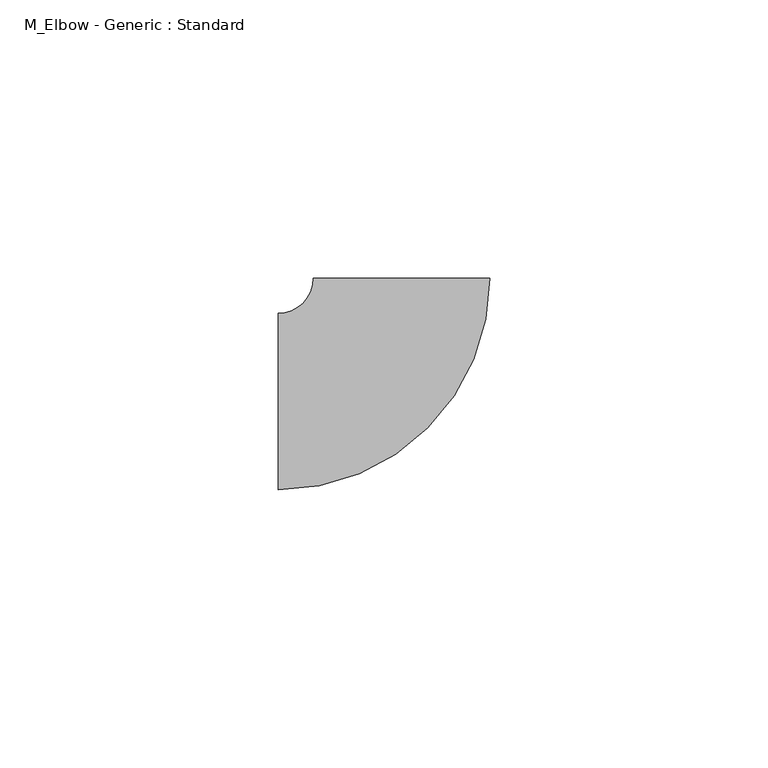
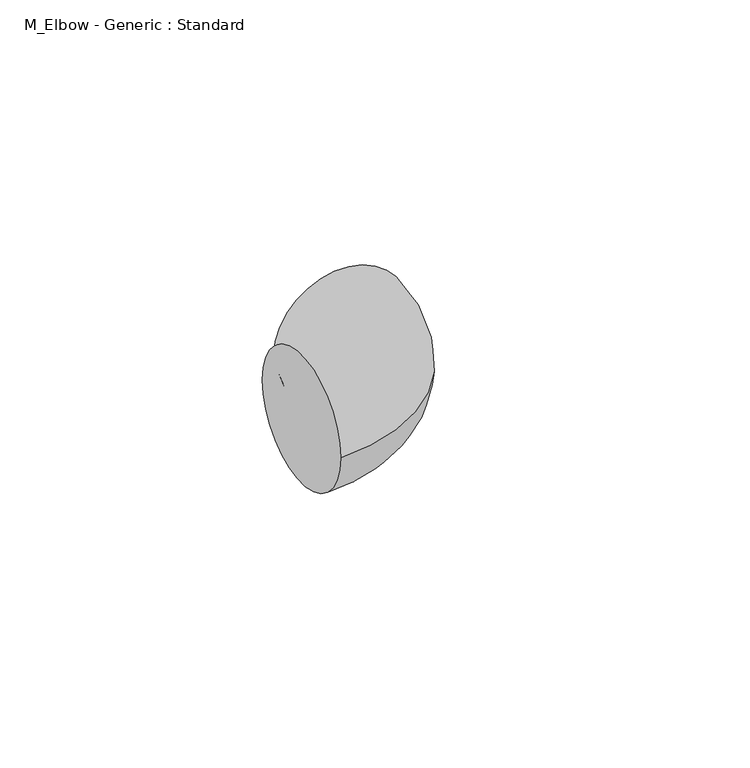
"""IFC4 building model written with IfcOpenShell, lengths in millimetres: pipe fitting geometry, M_Elbow - Generic : Standard."""

from ifc_helpers import new_model, si_unit, point, frame, origin, place, context, project, spatial, circle_curve, ellipse_curve, trimmed, source, transform, mapped, element, save
from ifc_brep_helpers import plane_surface, revolved_surface, advanced_brep


def m_elbow_generic_standard_463efa77(model_context):
    return source(origin(), model_context, "Body", "AdvancedBrep", [
        advanced_brep(
        [(-22.225, -15.875, 0.0), (-22.225, 15.875, 0.0), (15.875, 22.225, 0.0), (-15.875, 22.225, 0.0)],
        [
            (0, 1, circle_curve(frame((-22.225, 0.0, 0.0), z_axis=(-1.0, 0.0, 0.0), x_axis=(0.0, 1.0, 0.0)), 15.875)),
            (1, 0, circle_curve(frame((-22.225, 0.0, 0.0), z_axis=(-1.0, 0.0, 0.0), x_axis=(0.0, 1.0, 0.0)), 15.875)),
            (2, 3, circle_curve(frame((0.0, 22.225, 0.0), z_axis=(0.0, 1.0, 0.0), x_axis=(-1.0, 0.0, 0.0)), 15.875)),
            (3, 2, circle_curve(frame((0.0, 22.225, 0.0), z_axis=(0.0, 1.0, 0.0), x_axis=(-1.0, 0.0, 0.0)), 15.875)),
            (3, 1, circle_curve(frame((-22.225, 22.225, 0.0), z_axis=(0.0, 0.0, -1.0), x_axis=(0.0, -1.0, 0.0)), 6.35)),
            (0, 2, circle_curve(frame((-22.225, 22.225, 0.0), z_axis=(0.0, 0.0, 1.0), x_axis=(0.0, -1.0, 0.0)), 38.1)),
        ],
        [
            plane_surface(frame((-22.225, 0.0, 0.0), z_axis=(-1.0, 0.0, 0.0), x_axis=(0.0, 0.0, 1.0))),
            plane_surface(frame((0.0, 22.225, 0.0), z_axis=(0.0, 1.0, 0.0), x_axis=(0.0, 0.0, 1.0))),
            revolved_surface(trimmed(ellipse_curve(frame((-22.225, 0.0, 0.0), z_axis=(-1.0, 0.0, 0.0), x_axis=(0.0, 1.0, 0.0)), 15.875, 15.875), [point((-22.225, -15.875, 0.0))], [point((-22.225, 15.875, 0.0))], True, "CARTESIAN"), (-22.225, 22.225, 0.0), (0.0, 0.0, 1.0)),
            revolved_surface(trimmed(ellipse_curve(frame((-22.225, 0.0, 0.0), z_axis=(-1.0, 0.0, 0.0), x_axis=(0.0, 1.0, 0.0)), 15.875, 15.875), [point((-22.225, 15.875, 0.0))], [point((-22.225, -15.875, 0.0))], True, "CARTESIAN"), (-22.225, 22.225, 0.0), (0.0, 0.0, 1.0)),
        ],
        [
            (0, [[1, 2]]),
            (1, [[3, 4]]),
            (2, [[5, -1, 6, -4]]),
            (3, [[-6, -2, -5, -3]]),
        ],
    ),
    ])


if __name__ == "__main__":
    model = new_model("IFC4")
    model_context = context("Model", 3, world=origin())
    ifc_project = project(units=[si_unit("LENGTHUNIT", "METRE", prefix="MILLI")], contexts=[model_context])
    site = spatial("IfcSite", under=ifc_project)
    building = spatial("IfcBuilding", under=site)
    placement = place(None, origin())
    m_elbow_generic_standard_shape = m_elbow_generic_standard_463efa77(model_context)
    element("IfcPipeFitting", 1, ObjectType="M_Elbow - Generic : Standard", at=placement, inside=building, context=model_context, shape_type="MappedRepresentation", body=[
        mapped(m_elbow_generic_standard_shape, transform((0.0, 0.0, 0.0), x_axis=(1.0, 0.0, 0.0), y_axis=(0.0, 1.0, 0.0), z_axis=(0.0, 0.0, 1.0))),
    ])
    save(model, "model.ifc")
